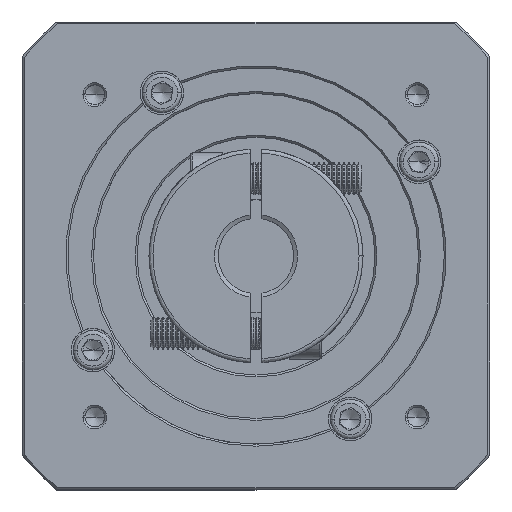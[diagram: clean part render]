
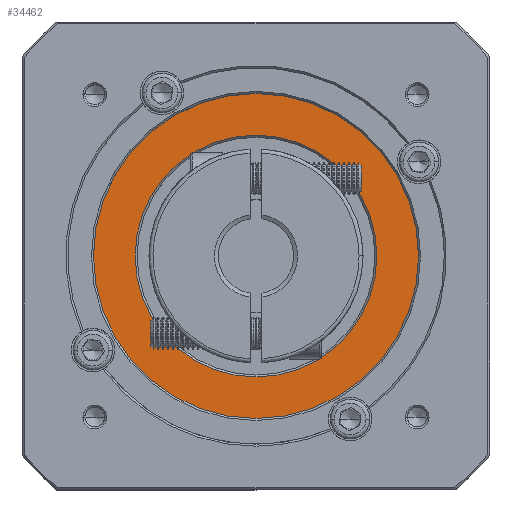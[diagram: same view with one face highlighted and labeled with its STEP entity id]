
A CAD part, top view. The second image highlights one B-rep face of the part: STEP entity #34462.
In plain terms, the highlighted planar face has unit normal (0, 0, 1).
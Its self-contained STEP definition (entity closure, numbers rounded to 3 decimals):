
#254 = ORIENTED_EDGE ( 'NONE', *, *, #37990, .T. ) ;
#3425 = AXIS2_PLACEMENT_3D ( 'NONE', #20315, #94048, #40199 ) ;
#5465 = PLANE ( 'NONE',  #88531 ) ;
#6877 = VERTEX_POINT ( 'NONE', #6984 ) ;
#6984 = CARTESIAN_POINT ( 'NONE',  ( 5.754, -1.416, 219.502 ) ) ;
#10972 = CIRCLE ( 'NONE', #72908, 30.5 ) ;
#15554 = CIRCLE ( 'NONE', #63597, 41. ) ;
#17483 = VERTEX_POINT ( 'NONE', #100500 ) ;
#18240 = DIRECTION ( 'NONE',  ( 1., 0., 0. ) ) ;
#19748 = CIRCLE ( 'NONE', #3425, 30.5 ) ;
#20315 = CARTESIAN_POINT ( 'NONE',  ( -35.246, -1.416, 219.502 ) ) ;
#22879 = CARTESIAN_POINT ( 'NONE',  ( -35.246, -1.416, 219.502 ) ) ;
#29392 = DIRECTION ( 'NONE',  ( 0., 0., 1. ) ) ;
#34462 = ADVANCED_FACE ( 'NONE', ( #124638, #119782 ), #5465, .T. ) ;
#35315 = EDGE_LOOP ( 'NONE', ( #131892, #95352 ) ) ;
#35666 = DIRECTION ( 'NONE',  ( 1., 0., 0. ) ) ;
#37990 = EDGE_CURVE ( 'NONE', #38853, #17483, #19748, .T. ) ;
#38853 = VERTEX_POINT ( 'NONE', #130861 ) ;
#40199 = DIRECTION ( 'NONE',  ( 1., 0., 0. ) ) ;
#43985 = DIRECTION ( 'NONE',  ( 0., 0., -1. ) ) ;
#59678 = DIRECTION ( 'NONE',  ( 1., 0., 0. ) ) ;
#61913 = AXIS2_PLACEMENT_3D ( 'NONE', #22879, #75936, #117694 ) ;
#63597 = AXIS2_PLACEMENT_3D ( 'NONE', #129701, #66664, #59678 ) ;
#66068 = CARTESIAN_POINT ( 'NONE',  ( -35.246, -1.416, 219.502 ) ) ;
#66664 = DIRECTION ( 'NONE',  ( 0., 0., 1. ) ) ;
#69817 = VERTEX_POINT ( 'NONE', #116977 ) ;
#69975 = EDGE_CURVE ( 'NONE', #6877, #69817, #15554, .T. ) ;
#71774 = CARTESIAN_POINT ( 'NONE',  ( -35.246, -1.416, 219.502 ) ) ;
#72908 = AXIS2_PLACEMENT_3D ( 'NONE', #66068, #43985, #35666 ) ;
#75936 = DIRECTION ( 'NONE',  ( 0., 0., 1. ) ) ;
#86371 = EDGE_CURVE ( 'NONE', #17483, #38853, #10972, .T. ) ;
#88531 = AXIS2_PLACEMENT_3D ( 'NONE', #71774, #29392, #18240 ) ;
#94048 = DIRECTION ( 'NONE',  ( 0., 0., -1. ) ) ;
#94054 = EDGE_LOOP ( 'NONE', ( #103282, #254 ) ) ;
#95352 = ORIENTED_EDGE ( 'NONE', *, *, #125019, .T. ) ;
#100500 = CARTESIAN_POINT ( 'NONE',  ( -4.746, -1.416, 219.502 ) ) ;
#103282 = ORIENTED_EDGE ( 'NONE', *, *, #86371, .T. ) ;
#105866 = CIRCLE ( 'NONE', #61913, 41. ) ;
#116977 = CARTESIAN_POINT ( 'NONE',  ( -76.246, -1.416, 219.502 ) ) ;
#117694 = DIRECTION ( 'NONE',  ( 1., 0., 0. ) ) ;
#119782 = FACE_BOUND ( 'NONE', #94054, .T. ) ;
#124638 = FACE_OUTER_BOUND ( 'NONE', #35315, .T. ) ;
#125019 = EDGE_CURVE ( 'NONE', #69817, #6877, #105866, .T. ) ;
#129701 = CARTESIAN_POINT ( 'NONE',  ( -35.246, -1.416, 219.502 ) ) ;
#130861 = CARTESIAN_POINT ( 'NONE',  ( -65.746, -1.416, 219.502 ) ) ;
#131892 = ORIENTED_EDGE ( 'NONE', *, *, #69975, .T. ) ;
